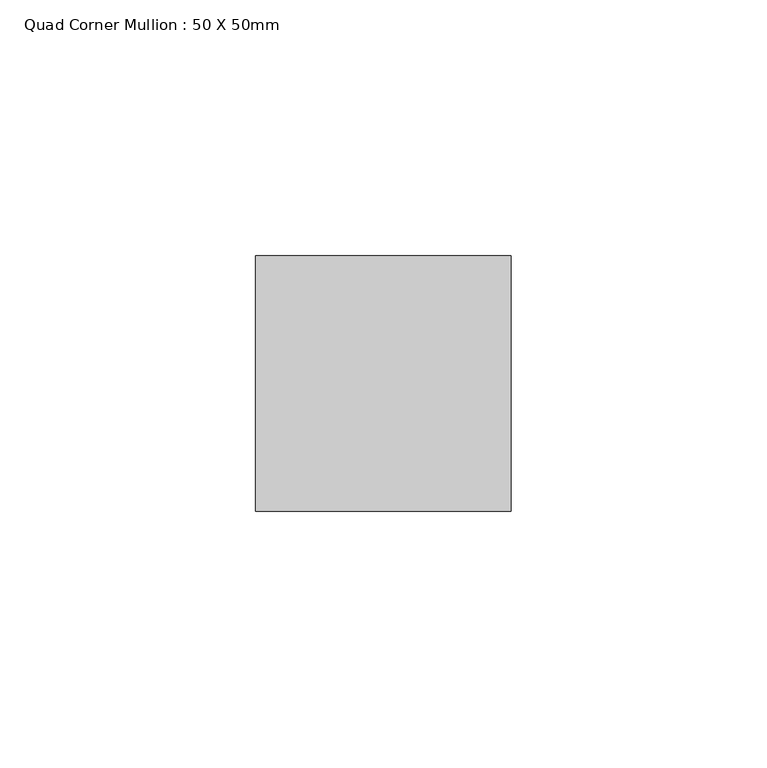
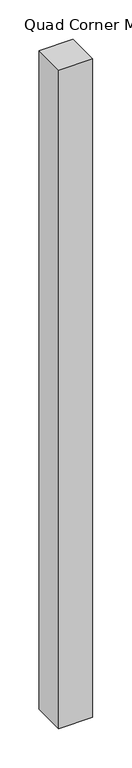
"""IFC4 building model written with IfcOpenShell, lengths in millimetres: member geometry, Quad Corner Mullion : 50 X 50mm."""

from ifc_helpers import new_model, si_unit, frame, origin, place, context, project, spatial, polyline, outline, extrude, source, transform, mapped, element, save


def quad_corner_mullion_50_x_50mm_10c7d66f(model_context):
    return source(origin(), model_context, "Body", "SweptSolid", [
        extrude(outline(polyline([(25.0, -25.0), (-25.0, -25.0), (-25.0, 25.0), (25.0, 25.0), (25.0, -25.0)])), frame((0.0, 0.0, -1022.917575), z_axis=(0.0, 0.0, 1.0), x_axis=(1.0, 0.0, 0.0)), (0.0, 0.0, 1.0), 1022.917575),
    ])


if __name__ == "__main__":
    model = new_model("IFC4")
    model_context = context("Model", 3, world=origin())
    ifc_project = project(units=[si_unit("LENGTHUNIT", "METRE", prefix="MILLI")], contexts=[model_context])
    site = spatial("IfcSite", under=ifc_project)
    building = spatial("IfcBuilding", under=site)
    placement = place(None, origin())
    quad_corner_mullion_50_x_50mm_shape = quad_corner_mullion_50_x_50mm_10c7d66f(model_context)
    element("IfcMember", 1, ObjectType="Quad Corner Mullion : 50 X 50mm", at=placement, inside=building, context=model_context, shape_type="MappedRepresentation", body=[
        mapped(quad_corner_mullion_50_x_50mm_shape, transform((0.0, 0.0, 0.0), x_axis=(1.0, 0.0, 0.0), y_axis=(0.0, 1.0, 0.0), z_axis=(0.0, 0.0, 1.0))),
    ])
    save(model, "model.ifc")
